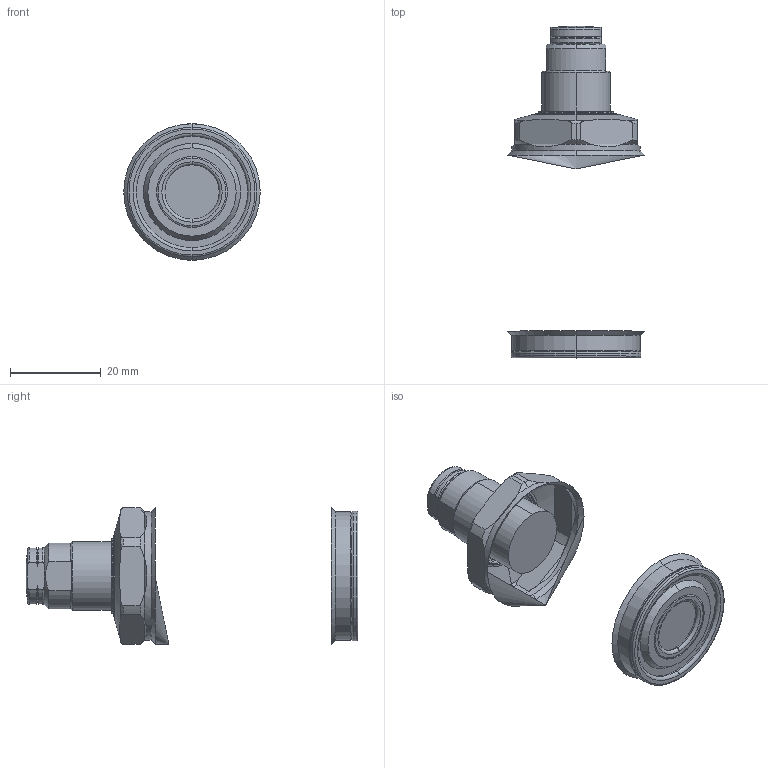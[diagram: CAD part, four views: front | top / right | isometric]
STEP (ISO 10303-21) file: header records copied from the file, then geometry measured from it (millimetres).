
FILE_DESCRIPTION(/* description */ (''),/* implementation_level */ '2;1');
FILE_NAME(/* name */ 'GSS03.stp',/* time_stamp */ '2025-01-10T09:25:17+08:00',/* author */ (''),/* organization */ (''),/* preprocessor_version */ 'ST-DEVELOPER v16.7',/* originating_system */ 'SIEMENS PLM Software NX 12.0',/* authorisation */ '');
FILE_SCHEMA (('AUTOMOTIVE_DESIGN { 1 0 10303 214 3 1 1 1 }'));
Length unit declared in the file: millimetre
Products named in the file (7): TNC0403_ContactBolt_M10108; AS010109; GSS03-004; GSS03-03; GSS03-02; GSS03-01; GSS03_stp
Assembly tree (6 placements, depth 3):
  GSS03_stp
    GSS03-01
      AS010109
      TNC0403_ContactBolt_M10108
    GSS03-02
    GSS03-03
    GSS03-004
Bounding box: 30 x 73 x 30 mm (x, y, z)
Volume: 7127.4 mm3; surface area: 5997.3 mm2
Topology: 5 solids, 6 shells, 164 faces, 364 edges, 220 vertices
Faces by surface type: cylinder 48, torus 45, plane 35, cone 34, sphere 2
Full cylindrical faces by diameter (mm): 28.2 x1, 30 x2
Entity records: 4999 total; most frequent: CARTESIAN_POINT 1111, DIRECTION 873, ORIENTED_EDGE 732, AXIS2_PLACEMENT_3D 389, EDGE_CURVE 366, VERTEX_POINT 223, CIRCLE 213, EDGE_LOOP 179
